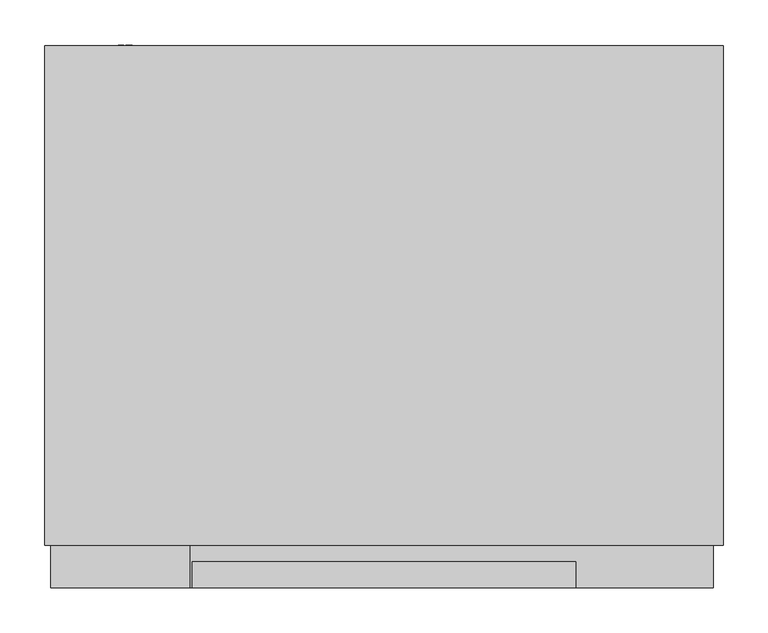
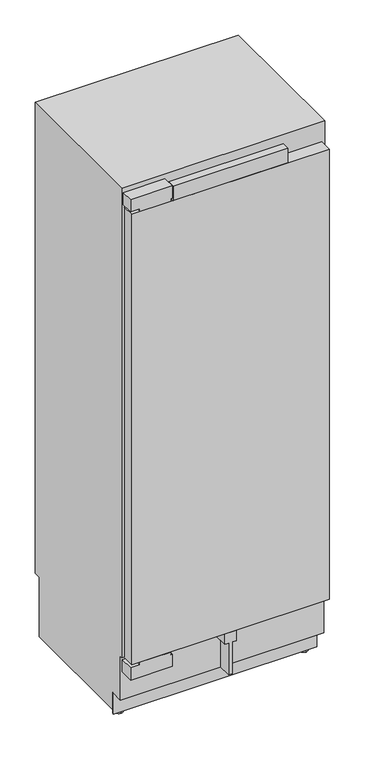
"""IFC4 building model written with IfcOpenShell, lengths in millimetres: proxy geometry, 11502640_USA_K2812Vi : 36281201_USA_11502640_K2812Vi."""

import ifcopenshell
import ifcopenshell.guid

model = None  # the IFC model being written
_history = None  # IfcOwnerHistory: only IFC2X3 demands one
_inside = {}  # id of a spatial element -> (the spatial element, [elements in it])
_under = {}  # id of a project, library or spatial element -> (it, [spatial elements below it])
_declared = {}  # id of a project -> (the project, [libraries it declares])
_typed = {}  # id of a type object -> (the type object, [elements of that type])
_made_of = {}  # id of a material, layer set ... -> (it, [elements and type objects made of it])


def new_model(schema):
    """Start an empty IFC model of exactly this schema.

    Asked for "IFC4X3", IfcOpenShell would pick the latest addendum, in which some entities
    have other attributes; the version numbers below select the first issue.
    IFC2X3 requires an IfcOwnerHistory on every rooted entity: one is made here for all.
    """
    global model, _history
    if schema == "IFC4X3":
        model = ifcopenshell.file(schema_version=(4, 3, 0, 0))
    else:
        model = ifcopenshell.file(schema=schema)
    _inside.clear()
    _under.clear()
    _declared.clear()
    _typed.clear()
    _made_of.clear()
    _history = None
    if model.schema == "IFC2X3":
        org = make("IfcOrganization", Name="unknown")
        user = make(
            "IfcPersonAndOrganization",
            ThePerson=make("IfcPerson", FamilyName="unknown"),
            TheOrganization=org,
        )
        app = make(
            "IfcApplication",
            ApplicationDeveloper=org,
            Version="unknown",
            ApplicationFullName="unknown",
            ApplicationIdentifier="unknown",
        )
        _history = make(
            "IfcOwnerHistory",
            OwningUser=user,
            OwningApplication=app,
            ChangeAction="ADDED",
            CreationDate=0,
        )
    return model


def make(cls, **values):
    """One entity of the class cls with the attributes given. An attribute that is None is left unset."""
    return model.create_entity(
        cls, **{name: value for name, value in values.items() if value is not None}
    )


def rooted(cls, **values):
    """An entity with a GlobalId (a new one), such as an element, a storey or a relation."""
    return make(cls, GlobalId=ifcopenshell.guid.new(), OwnerHistory=_history, **values)


def si_unit(unit_type, name, prefix=None):
    """IfcSIUnit, for example si_unit("LENGTHUNIT", "METRE", prefix="MILLI")."""
    return make("IfcSIUnit", UnitType=unit_type, Prefix=prefix, Name=name)


def assignment(units):
    """IfcUnitAssignment: the units of a project."""
    return None if units is None else make("IfcUnitAssignment", Units=units)


def point(xyz):
    """IfcCartesianPoint."""
    return None if xyz is None else make("IfcCartesianPoint", Coordinates=xyz)


def direction(xyz):
    """IfcDirection."""
    return None if xyz is None else make("IfcDirection", DirectionRatios=xyz)


def frame(location, z_axis=None, x_axis=None):
    """IfcAxis2Placement3D, a coordinate frame: its origin and axes. An axis left out is left unset."""
    return make(
        "IfcAxis2Placement3D",
        Location=point(location),
        Axis=direction(z_axis),
        RefDirection=direction(x_axis),
    )


def frame_2d(location, x_axis=None):
    """IfcAxis2Placement2D, a coordinate frame in the plane: its origin and x axis."""
    return make(
        "IfcAxis2Placement2D", Location=point(location), RefDirection=direction(x_axis)
    )


def origin():
    """The frame at (0, 0, 0) with its axes left unset."""
    return frame((0.0, 0.0, 0.0))


def place(relative_to, where):
    """IfcLocalPlacement: puts the frame where relative to a parent placement (None: the world)."""
    return make(
        "IfcLocalPlacement", PlacementRelTo=relative_to, RelativePlacement=where
    )


def context(
    kind, dimensions, precision=None, world=None, true_north=None, identifier=None
):
    """IfcGeometricRepresentationContext, for example the 3D "Model" context."""
    return make(
        "IfcGeometricRepresentationContext",
        ContextIdentifier=identifier,
        ContextType=kind,
        CoordinateSpaceDimension=dimensions,
        Precision=precision,
        WorldCoordinateSystem=world,
        TrueNorth=true_north,
    )


def project(units=None, contexts=None):
    """IfcProject with its units and contexts."""
    return rooted(
        "IfcProject",
        Name="project",
        RepresentationContexts=contexts,
        UnitsInContext=assignment(units),
    )


def spatial(cls, under=None, at=None, **own):
    """A site, building, storey or space (cls), placed at a placement, below another one or the project."""
    s = rooted(cls, ObjectPlacement=at, **own)
    if under is not None:
        _under.setdefault(under.id(), (under, []))[1].append(s)
    return s


def polyline(points):
    """IfcPolyline through the points."""
    return make("IfcPolyline", Points=[point(p) for p in points])


def circle_curve(where, radius):
    """IfcCircle in the frame where."""
    return make("IfcCircle", Position=where, Radius=radius)


def trimmed(basis, trim1, trim2, sense, master):
    """IfcTrimmedCurve: the piece of a basis curve between two trims."""
    return make(
        "IfcTrimmedCurve",
        BasisCurve=basis,
        Trim1=trim1,
        Trim2=trim2,
        SenseAgreement=sense,
        MasterRepresentation=master,
    )


def segment(curve, same_sense, transition):
    """IfcCompositeCurveSegment."""
    return make(
        "IfcCompositeCurveSegment",
        Transition=transition,
        SameSense=same_sense,
        ParentCurve=curve,
    )


def composite_curve(segments, self_intersect=None):
    """IfcCompositeCurve: segments joined end to end."""
    return make("IfcCompositeCurve", Segments=segments, SelfIntersect=self_intersect)


def outline(outer, holes=None, kind="AREA"):
    """IfcArbitraryClosedProfileDef: a profile drawn as a closed curve; with holes, ...WithVoids."""
    if holes is None:
        return make("IfcArbitraryClosedProfileDef", ProfileType=kind, OuterCurve=outer)
    return make(
        "IfcArbitraryProfileDefWithVoids",
        ProfileType=kind,
        OuterCurve=outer,
        InnerCurves=holes,
    )


def extrude(swept, where, along, depth):
    """IfcExtrudedAreaSolid: the profile swept, set in the frame where, extruded along a direction by depth."""
    return make(
        "IfcExtrudedAreaSolid",
        SweptArea=swept,
        Position=where,
        ExtrudedDirection=direction(along),
        Depth=depth,
    )


def shape(context_of_items, identifier, shape_type, items):
    """IfcShapeRepresentation: the items that make up one representation, for example the "Body"."""
    return make(
        "IfcShapeRepresentation",
        ContextOfItems=context_of_items,
        RepresentationIdentifier=identifier,
        RepresentationType=shape_type,
        Items=items,
    )


def source(mapping_origin, context_of_items, identifier, shape_type, items):
    """IfcRepresentationMap: a shape defined once, which mapped items show again and again."""
    return make(
        "IfcRepresentationMap",
        MappingOrigin=mapping_origin,
        MappedRepresentation=shape(context_of_items, identifier, shape_type, items),
    )


def transform(
    local_origin,
    x_axis=None,
    y_axis=None,
    z_axis=None,
    scale=None,
    scale2=None,
    scale3=None,
    uniform=True,
):
    """IfcCartesianTransformationOperator3D, or its non-uniform kind. x_axis, y_axis, z_axis: its Axis1, 2, 3."""
    if uniform:
        return make(
            "IfcCartesianTransformationOperator3D",
            Axis1=direction(x_axis),
            Axis2=direction(y_axis),
            LocalOrigin=point(local_origin),
            Scale=scale,
            Axis3=direction(z_axis),
        )
    return make(
        "IfcCartesianTransformationOperator3DnonUniform",
        Axis1=direction(x_axis),
        Axis2=direction(y_axis),
        LocalOrigin=point(local_origin),
        Scale=scale,
        Axis3=direction(z_axis),
        Scale2=scale2,
        Scale3=scale3,
    )


def mapped(mapping_source, mapping_target):
    """IfcMappedItem: shows the shape of a source again, moved by a transform."""
    return make(
        "IfcMappedItem", MappingSource=mapping_source, MappingTarget=mapping_target
    )


def made_of(thing, what):
    """Note that an element or type object is made of a material, layer set ...; save() writes the relation."""
    if what is not None:
        _made_of.setdefault(what.id(), (what, []))[1].append(thing)
    return thing


def element(
    cls,
    number,
    at=None,
    inside=None,
    cuts=None,
    type_object=None,
    material=None,
    context=None,
    identifier="Body",
    shape_type=None,
    held_by="IfcProductDefinitionShape",
    body=None,
    shapes=None,
    **own,
):
    """One element of the class cls, such as IfcWall. Its Tag is "e" and its number.

    at: its placement. inside: the storey or other place that contains it. cuts: it is an
    opening in that element (IfcRelVoidsElement). A single representation is given by context,
    identifier, shape_type and body (its items); several are given by shapes. held_by: the class
    of the entity that holds the representations. save() writes the other relations.
    """
    e = rooted(cls, Tag="e%d" % number, ObjectPlacement=at, **own)
    if body is not None:
        shapes = [shape(context, identifier, shape_type, body)]
    if shapes is not None:
        e.Representation = make(held_by, Representations=shapes)
    if inside is not None:
        _inside.setdefault(inside.id(), (inside, []))[1].append(e)
    if cuts is not None:
        rooted(
            "IfcRelVoidsElement", RelatingBuildingElement=cuts, RelatedOpeningElement=e
        )
    if type_object is not None:
        _typed.setdefault(type_object.id(), (type_object, []))[1].append(e)
    return made_of(e, material)


def aggregate(whole, parts):
    """IfcRelAggregates: a whole, such as a stair, and the parts it consists of."""
    return rooted("IfcRelAggregates", RelatingObject=whole, RelatedObjects=parts)


def save(model, path):
    """Write the relations noted so far, then the file.

    IfcRelAggregates (storeys below a building ...), IfcRelContainedInSpatialStructure (elements
    in a storey), IfcRelDefinesByType, IfcRelAssociatesMaterial and IfcRelDeclares: one each for
    every whole, place, type object, material and project.
    """
    for whole, parts in _under.values():
        aggregate(whole, parts)
    for where, things in _inside.values():
        rooted(
            "IfcRelContainedInSpatialStructure",
            RelatedElements=things,
            RelatingStructure=where,
        )
    for kind, things in _typed.values():
        rooted("IfcRelDefinesByType", RelatedObjects=things, RelatingType=kind)
    for what, things in _made_of.values():
        rooted("IfcRelAssociatesMaterial", RelatedObjects=things, RelatingMaterial=what)
    for by, libraries in _declared.values():
        rooted("IfcRelDeclares", RelatingContext=by, RelatedDefinitions=libraries)
    model.write(path)


def plane_surface(at):
    """IfcPlane: the flat surface through the origin of the frame at, square to its z axis."""
    return make("IfcPlane", Position=at)


def cylinder_surface(at, radius):
    """IfcCylindricalSurface: all points at the distance radius from the z axis of the frame at."""
    return make("IfcCylindricalSurface", Position=at, Radius=radius)


def advanced_brep(points, edges, surfaces, faces):
    """IfcAdvancedBrep: a solid bounded by faces that lie on surfaces and meet in shared edges.

    An edge is (start, end): straight between two places in points (the first is 0);
    or (start, end, curve); or (start, end, curve, False) where it runs against its curve.
    A face is (place in surfaces, loops), or (place, loops, False) where it looks against
    its surface's normal. A loop lists edges by number (the first is 1), with a minus sign
    where the edge is run from its end to its start. The first loop is the outer one.
    """
    corners = [point(p) for p in points]
    vertices = [make("IfcVertexPoint", VertexGeometry=c) for c in corners]
    made = []
    for start, end, *more in edges:
        made.append(
            make(
                "IfcEdgeCurve",
                EdgeStart=vertices[start],
                EdgeEnd=vertices[end],
                EdgeGeometry=more[0] if more else make("IfcPolyline", Points=[corners[start], corners[end]]),
                SameSense=more[1] if len(more) > 1 else True,
            )
        )
    hull = []
    for where, loops, *sense in faces:
        bounds = []
        for j, loop in enumerate(loops):
            ring = [make("IfcOrientedEdge", EdgeElement=made[abs(k) - 1], Orientation=k > 0) for k in loop]
            bounds.append(
                make(
                    "IfcFaceOuterBound" if j == 0 else "IfcFaceBound",
                    Bound=make("IfcEdgeLoop", EdgeList=ring),
                    Orientation=True,
                )
            )
        hull.append(make("IfcAdvancedFace", Bounds=bounds, FaceSurface=surfaces[where], SameSense=sense[0] if sense else True))
    return make("IfcAdvancedBrep", Outer=make("IfcClosedShell", CfsFaces=hull))


def specialty_equipment_694db8ee(model_context):
    return source(origin(), model_context, "Body", "SolidModel", [
        extrude(outline(polyline([(-367.0, 47.0), (367.0, 47.0), (367.0, 0.0), (-367.0, 0.0), (-367.0, 47.0)])), frame((0.0, 0.0, 265.0), z_axis=(0.0, 0.0, 1.0), x_axis=(1.0, 0.0, 0.0)), (0.0, 0.0, 1.0), 1771.0),
        extrude(outline(polyline([(-213.5, 29.0), (213.5, 29.0), (213.5, 0.0), (-213.5, 0.0), (-213.5, 29.0)])), frame((0.0, 0.0, 2036.0), z_axis=(0.0, 0.0, 1.0), x_axis=(1.0, 0.0, 0.0)), (0.0, 0.0, 1.0), 56.0),
        extrude(outline(polyline([(265.0, 21.0), (265.0, 0.0), (265.0, -21.0), (224.0, -21.0), (224.0, -6.5), (99.0, -6.5), (99.0, 0.0), (99.0, 6.5), (224.0, 6.5), (224.0, 21.0), (265.0, 21.0)])), frame((0.0, 0.0, 0.0), z_axis=(0.0, 1.0, 0.0), x_axis=(0.0, 0.0, 1.0)), (0.0, 0.0, 1.0), 54.0),
        extrude(outline(polyline([(87.0, 1998.0), (544.0, 1998.0), (544.0, 1791.0), (475.0, 1791.0), (447.0, 1868.0), (201.3701279, 1868.0), (156.3150905, 1940.0880598), (87.0, 1949.0), (87.0, 1998.0)])), frame((-332.0, 0.0, 0.0), z_axis=(1.0, 0.0, 0.0), x_axis=(0.0, 1.0, 0.0)), (0.0, 0.0, 1.0), 664.0),
        extrude(outline(polyline([(196.9886114, 1875.0), (195.809433, 1875.0), (158.6921935, 1934.4), (159.8713719, 1934.4), (196.9886114, 1875.0)])), frame((-69.0, 0.0, 0.0), z_axis=(1.0, 0.0, 0.0), x_axis=(0.0, 1.0, 0.0)), (0.0, 0.0, 1.0), 138.0),
        extrude(outline(polyline([(2095.0, -371.5), (2047.0, -371.5), (2047.0, -337.5), (2036.5, -337.5), (2036.5, -222.5), (2047.0, -222.5), (2047.0, -216.5), (2095.0, -216.5), (2095.0, -371.5)])), frame((0.0, 0.0, 0.0), z_axis=(0.0, 1.0, 0.0), x_axis=(0.0, 0.0, 1.0)), (0.0, 0.0, 1.0), 47.0),
        extrude(outline(polyline([(254.0, -371.5), (206.0, -371.5), (206.0, -216.5), (254.0, -216.5), (254.0, -222.5), (264.0, -222.5), (264.0, -337.5), (254.0, -337.5), (254.0, -371.5)])), frame((0.0, 0.0, 0.0), z_axis=(0.0, 1.0, 0.0), x_axis=(0.0, 0.0, 1.0)), (0.0, 0.0, 1.0), 54.0),
        extrude(outline(polyline([(99.0373308, -287.7645771), (97.7615342, -287.7645771), (97.7615342, -281.8195541), (94.7968516, -281.8195541), (94.7968516, -287.469579), (93.5246295, -287.469579), (93.5246295, -281.8415693), (90.2570046, -281.8415693), (90.2570046, -287.9619689), (88.9546219, -287.9619689), (88.9546219, -280.5443524), (99.0373308, -280.5443524), (99.0373308, -287.7645771)])), frame((0.0, 604.0, 0.0), z_axis=(0.0, 1.0, 0.0), x_axis=(0.0, 0.0, 1.0)), (0.0, 0.0, 1.0), 1.0),
        extrude(outline(polyline([(99.0458, -291.0619704), (90.2663944, -291.0619704), (90.2663944, -296.1145879), (89.0134802, -296.1145879), (89.0134802, -289.8423809), (99.0458, -289.8423809), (99.0458, -291.0619704)])), frame((0.0, 604.0, 0.0), z_axis=(0.0, 1.0, 0.0), x_axis=(0.0, 0.0, 1.0)), (0.0, 0.0, 1.0), 1.0),
        extrude(outline(composite_curve([segment(trimmed(circle_curve(frame_2d((94.0, -288.0)), 7.5), [point((86.5, -288.0))], [point((101.5, -288.0))], False, "CARTESIAN"), True, "CONTINUOUS"), segment(trimmed(circle_curve(frame_2d((94.0, -288.0)), 7.5), [point((101.5, -288.0))], [point((86.5, -288.0))], False, "CARTESIAN"), True, "CONTINUOUS")], self_intersect=False)), frame((0.0, 577.0, 0.0), z_axis=(0.0, 1.0, 0.0), x_axis=(0.0, 0.0, 1.0)), (0.0, 0.0, 1.0), 27.0),
        extrude(outline(polyline([(-378.0, 104.0), (378.0, 104.0), (378.0, 99.0), (-378.0, 99.0), (-378.0, 104.0)])), frame((0.0, 0.0, 14.0), z_axis=(0.0, 0.0, 1.0), x_axis=(1.0, 0.0, 0.0)), (0.0, 0.0, 1.0), 83.0),
        advanced_brep(
        [(-344.0, 139.0, 0.0), (-344.0, 109.0, 0.0), (-344.0, 139.0, 7.0), (-344.0, 109.0, 7.0), (-344.0, 128.7, 7.0), (-344.0, 119.3, 7.0), (-344.0, 128.7, 28.0), (-344.0, 119.3, 28.0)],
        [
            (0, 1, circle_curve(frame((-344.0, 124.0, 0.0), z_axis=(0.0, 0.0, -1.0), x_axis=(1.0, 0.0, 0.0)), 15.0)),
            (1, 0, circle_curve(frame((-344.0, 124.0, 0.0), z_axis=(0.0, 0.0, -1.0), x_axis=(1.0, 0.0, 0.0)), 15.0)),
            (2, 3, circle_curve(frame((-344.0, 124.0, 7.0), z_axis=(0.0, 0.0, 1.0), x_axis=(1.0, 0.0, 0.0)), 15.0)),
            (3, 2, circle_curve(frame((-344.0, 124.0, 7.0), z_axis=(0.0, 0.0, 1.0), x_axis=(1.0, 0.0, 0.0)), 15.0)),
            (4, 5, circle_curve(frame((-344.0, 124.0, 7.0), z_axis=(0.0, 0.0, -1.0), x_axis=(0.0, -1.0, 0.0)), 4.7)),
            (5, 4, circle_curve(frame((-344.0, 124.0, 7.0), z_axis=(0.0, 0.0, -1.0), x_axis=(0.0, -1.0, 0.0)), 4.7)),
            (0, 2),
            (3, 1),
            (6, 7, circle_curve(frame((-344.0, 124.0, 28.0), z_axis=(0.0, 0.0, 1.0), x_axis=(0.0, -1.0, 0.0)), 4.7)),
            (7, 6, circle_curve(frame((-344.0, 124.0, 28.0), z_axis=(0.0, 0.0, 1.0), x_axis=(0.0, -1.0, 0.0)), 4.7)),
            (7, 5),
            (4, 6),
        ],
        [
            plane_surface(frame((-329.0, 124.0, 0.0), z_axis=(0.0, 0.0, -1.0), x_axis=(0.0, -1.0, 0.0))),
            plane_surface(frame((-329.0, 124.0, 7.0), z_axis=(0.0, 0.0, 1.0), x_axis=(0.0, 1.0, 0.0))),
            cylinder_surface(frame((-344.0, 124.0, 7.0), z_axis=(0.0, 0.0, -1.0), x_axis=(1.0, 0.0, 0.0)), 15.0),
            plane_surface(frame((-344.0, 119.3, 28.0), z_axis=(0.0, 0.0, 1.0), x_axis=(1.0, 0.0, 0.0))),
            cylinder_surface(frame((-344.0, 124.0, 28.0), z_axis=(0.0, 0.0, -1.0), x_axis=(0.0, -1.0, 0.0)), 4.7),
        ],
        [
            (0, [[1, 2]]),
            (1, [[3, 4], [5, 6]]),
            (2, [[-1, 7, -4, 8]]),
            (2, [[-2, -8, -3, -7]]),
            (3, [[9, 10]]),
            (4, [[-10, 11, -5, 12]]),
            (4, [[-9, -12, -6, -11]]),
        ],
    ),
        advanced_brep(
        [(344.0, 139.0, 0.0), (344.0, 109.0, 0.0), (344.0, 139.0, 7.0), (344.0, 109.0, 7.0), (344.0, 128.7, 7.0), (344.0, 119.3, 7.0), (344.0, 128.7, 28.0), (344.0, 119.3, 28.0)],
        [
            (0, 1, circle_curve(frame((344.0, 124.0, 0.0), z_axis=(0.0, 0.0, -1.0), x_axis=(1.0, 0.0, 0.0)), 15.0)),
            (1, 0, circle_curve(frame((344.0, 124.0, 0.0), z_axis=(0.0, 0.0, -1.0), x_axis=(1.0, 0.0, 0.0)), 15.0)),
            (2, 3, circle_curve(frame((344.0, 124.0, 7.0), z_axis=(0.0, 0.0, 1.0), x_axis=(1.0, 0.0, 0.0)), 15.0)),
            (3, 2, circle_curve(frame((344.0, 124.0, 7.0), z_axis=(0.0, 0.0, 1.0), x_axis=(1.0, 0.0, 0.0)), 15.0)),
            (4, 5, circle_curve(frame((344.0, 124.0, 7.0), z_axis=(0.0, 0.0, -1.0), x_axis=(0.0, -1.0, 0.0)), 4.7)),
            (5, 4, circle_curve(frame((344.0, 124.0, 7.0), z_axis=(0.0, 0.0, -1.0), x_axis=(0.0, -1.0, 0.0)), 4.7)),
            (0, 2),
            (3, 1),
            (6, 7, circle_curve(frame((344.0, 124.0, 28.0), z_axis=(0.0, 0.0, 1.0), x_axis=(0.0, -1.0, 0.0)), 4.7)),
            (7, 6, circle_curve(frame((344.0, 124.0, 28.0), z_axis=(0.0, 0.0, 1.0), x_axis=(0.0, -1.0, 0.0)), 4.7)),
            (7, 5),
            (4, 6),
        ],
        [
            plane_surface(frame((-329.0, 124.0, 0.0), z_axis=(0.0, 0.0, -1.0), x_axis=(0.0, -1.0, 0.0))),
            plane_surface(frame((-329.0, 124.0, 7.0), z_axis=(0.0, 0.0, 1.0), x_axis=(0.0, 1.0, 0.0))),
            cylinder_surface(frame((344.0, 124.0, 7.0), z_axis=(0.0, 0.0, -1.0), x_axis=(1.0, 0.0, 0.0)), 15.0),
            plane_surface(frame((-344.0, 119.3, 28.0), z_axis=(0.0, 0.0, 1.0), x_axis=(1.0, 0.0, 0.0))),
            cylinder_surface(frame((344.0, 124.0, 28.0), z_axis=(0.0, 0.0, -1.0), x_axis=(0.0, -1.0, 0.0)), 4.7),
        ],
        [
            (0, [[1, 2]]),
            (1, [[3, 4], [5, 6]]),
            (2, [[-1, 7, -4, 8]]),
            (2, [[-2, -8, -3, -7]]),
            (3, [[9, 10]]),
            (4, [[-10, 11, -5, 12]]),
            (4, [[-9, -12, -6, -11]]),
        ],
    ),
        advanced_brep(
        [(378.0, 47.0, 2114.0), (378.0, 47.0, 267.0), (378.0, 54.0, 267.0), (378.0, 54.0, 97.0), (378.0, 104.0, 97.0), (378.0, 104.0, 28.0), (378.0, 577.0, 28.0), (378.0, 577.0, 263.0), (378.0, 604.0, 263.0), (378.0, 604.0, 2114.0), (-378.0, 47.0, 2114.0), (-378.0, 604.0, 2114.0), (-378.0, 604.0, 263.0), (-378.0, 577.0, 263.0), (-378.0, 577.0, 28.0), (-378.0, 104.0, 28.0), (-378.0, 104.0, 97.0), (-378.0, 54.0, 97.0), (-378.0, 54.0, 267.0), (-378.0, 47.0, 267.0), (318.0, 577.0, 28.0), (318.0, 577.0, 14.0), (-318.0, 577.0, 14.0), (-318.0, 577.0, 28.0), (318.0, 104.0, 14.0), (-318.0, 104.0, 14.0), (-318.0, 104.0, 28.0), (318.0, 104.0, 28.0), (332.0, 47.0, 1998.0), (332.0, 47.0, 343.0), (-332.0, 47.0, 343.0), (-332.0, 47.0, 1998.0), (332.0, 544.0, 1998.0), (-332.0, 544.0, 1998.0), (-332.0, 544.0, 343.0), (332.0, 544.0, 343.0), (-336.5, 202.8193473, 28.0), (-355.5, 202.8193473, 28.0), (-355.5, 153.1806527, 28.0), (-336.5, 153.1806527, 28.0), (-356.0, 525.8193473, 28.0), (-356.0, 476.1806527, 28.0), (-340.0, 476.1806527, 28.0), (-340.0, 525.8193473, 28.0), (355.5, 153.1806527, 28.0), (355.5, 202.8193473, 28.0), (336.5, 202.8193473, 28.0), (336.5, 153.1806527, 28.0), (340.0, 525.8193473, 28.0), (340.0, 476.1806527, 28.0), (356.0, 476.1806527, 28.0), (356.0, 525.8193473, 28.0), (-336.5, 203.0, 25.0), (-336.5, 153.0, 25.0), (-355.5, 153.0, 25.0), (-355.5, 203.0, 25.0), (-336.5, 178.0, 25.0), (-355.5, 178.0, 25.0), (355.5, 178.0, 25.0), (355.5, 153.0, 25.0), (355.5, 203.0, 25.0), (336.5, 203.0, 25.0), (336.5, 153.0, 25.0), (336.5, 178.0, 25.0), (-356.0, 526.0, 25.0), (-356.0, 476.0, 25.0), (-356.0, 501.0, 25.0), (-340.0, 526.0, 25.0), (-340.0, 476.0, 25.0), (-340.0, 501.0, 25.0), (340.0, 526.0, 25.0), (340.0, 476.0, 25.0), (340.0, 501.0, 25.0), (356.0, 526.0, 25.0), (356.0, 476.0, 25.0), (356.0, 501.0, 25.0)],
        [
            (0, 1),
            (1, 2),
            (2, 3),
            (3, 4),
            (4, 5),
            (5, 6),
            (6, 7),
            (7, 8),
            (8, 9),
            (9, 0),
            (10, 11),
            (11, 12),
            (12, 13),
            (13, 14),
            (14, 15),
            (15, 16),
            (16, 17),
            (17, 18),
            (18, 19),
            (19, 10),
            (9, 11),
            (10, 0),
            (8, 12),
            (7, 13),
            (6, 20),
            (20, 21),
            (21, 22),
            (22, 23),
            (23, 14),
            (21, 24),
            (24, 25),
            (25, 22),
            (4, 16),
            (15, 26),
            (26, 25),
            (24, 27),
            (27, 5),
            (3, 17),
            (2, 18),
            (1, 19),
            (28, 29),
            (29, 30),
            (30, 31),
            (31, 28),
            (32, 33),
            (33, 34),
            (34, 35),
            (35, 32),
            (35, 29),
            (28, 32),
            (34, 30),
            (33, 31),
            (23, 26),
            (36, 37),
            (37, 38),
            (38, 39),
            (39, 36),
            (40, 41),
            (41, 42),
            (42, 43),
            (43, 40),
            (27, 20),
            (44, 45),
            (45, 46),
            (46, 47),
            (47, 44),
            (48, 49),
            (49, 50),
            (50, 51),
            (51, 48),
            (52, 53, circle_curve(frame((-336.5, 178.0, 25.0), z_axis=(-1.0, 0.0, 0.0), x_axis=(0.0, -1.0, 0.0)), 25.0)),
            (53, 54),
            (54, 55, circle_curve(frame((-355.5, 178.0, 25.0), z_axis=(1.0, 0.0, 0.0), x_axis=(0.0, -1.0, 0.0)), 25.0)),
            (55, 52),
            (53, 39, circle_curve(frame((-336.5, 178.0, 25.0), z_axis=(-1.0, 0.0, 0.0), x_axis=(0.0, -1.0, 0.0)), 25.0)),
            (38, 54, circle_curve(frame((-355.5, 178.0, 25.0), z_axis=(1.0, 0.0, 0.0), x_axis=(0.0, -1.0, 0.0)), 25.0)),
            (55, 37, circle_curve(frame((-355.5, 178.0, 25.0), z_axis=(1.0, 0.0, 0.0), x_axis=(0.0, -1.0, 0.0)), 25.0)),
            (36, 52, circle_curve(frame((-336.5, 178.0, 25.0), z_axis=(-1.0, 0.0, 0.0), x_axis=(0.0, -1.0, 0.0)), 25.0)),
            (52, 56),
            (56, 53),
            (54, 57),
            (57, 55),
            (58, 59),
            (59, 60, circle_curve(frame((355.5, 178.0, 25.0), z_axis=(1.0, 0.0, 0.0), x_axis=(0.0, -1.0, 0.0)), 25.0)),
            (60, 58),
            (60, 45, circle_curve(frame((355.5, 178.0, 25.0), z_axis=(1.0, 0.0, 0.0), x_axis=(0.0, -1.0, 0.0)), 25.0)),
            (44, 59, circle_curve(frame((355.5, 178.0, 25.0), z_axis=(1.0, 0.0, 0.0), x_axis=(0.0, -1.0, 0.0)), 25.0)),
            (61, 62, circle_curve(frame((336.5, 178.0, 25.0), z_axis=(-1.0, 0.0, 0.0), x_axis=(0.0, -1.0, 0.0)), 25.0)),
            (62, 63),
            (63, 61),
            (62, 47, circle_curve(frame((336.5, 178.0, 25.0), z_axis=(-1.0, 0.0, 0.0), x_axis=(0.0, -1.0, 0.0)), 25.0)),
            (46, 61, circle_curve(frame((336.5, 178.0, 25.0), z_axis=(-1.0, 0.0, 0.0), x_axis=(0.0, -1.0, 0.0)), 25.0)),
            (64, 65, circle_curve(frame((-356.0, 501.0, 25.0), z_axis=(-1.0, 0.0, 0.0), x_axis=(0.0, -1.0, 0.0)), 25.0)),
            (65, 66),
            (66, 64),
            (65, 41, circle_curve(frame((-356.0, 501.0, 25.0), z_axis=(-1.0, 0.0, 0.0), x_axis=(0.0, -1.0, 0.0)), 25.0)),
            (40, 64, circle_curve(frame((-356.0, 501.0, 25.0), z_axis=(-1.0, 0.0, 0.0), x_axis=(0.0, -1.0, 0.0)), 25.0)),
            (64, 67),
            (67, 68, circle_curve(frame((-340.0, 501.0, 25.0), z_axis=(-1.0, 0.0, 0.0), x_axis=(0.0, -1.0, 0.0)), 25.0)),
            (68, 65),
            (43, 67, circle_curve(frame((-340.0, 501.0, 25.0), z_axis=(-1.0, 0.0, 0.0), x_axis=(0.0, -1.0, 0.0)), 25.0)),
            (68, 42, circle_curve(frame((-340.0, 501.0, 25.0), z_axis=(-1.0, 0.0, 0.0), x_axis=(0.0, -1.0, 0.0)), 25.0)),
            (67, 69),
            (69, 68),
            (70, 71, circle_curve(frame((340.0, 501.0, 25.0), z_axis=(-1.0, 0.0, 0.0), x_axis=(0.0, -1.0, 0.0)), 25.0)),
            (71, 72),
            (72, 70),
            (71, 49, circle_curve(frame((340.0, 501.0, 25.0), z_axis=(-1.0, 0.0, 0.0), x_axis=(0.0, -1.0, 0.0)), 25.0)),
            (48, 70, circle_curve(frame((340.0, 501.0, 25.0), z_axis=(-1.0, 0.0, 0.0), x_axis=(0.0, -1.0, 0.0)), 25.0)),
            (70, 73),
            (73, 74, circle_curve(frame((356.0, 501.0, 25.0), z_axis=(-1.0, 0.0, 0.0), x_axis=(0.0, -1.0, 0.0)), 25.0)),
            (74, 71),
            (51, 73, circle_curve(frame((356.0, 501.0, 25.0), z_axis=(-1.0, 0.0, 0.0), x_axis=(0.0, -1.0, 0.0)), 25.0)),
            (74, 50, circle_curve(frame((356.0, 501.0, 25.0), z_axis=(-1.0, 0.0, 0.0), x_axis=(0.0, -1.0, 0.0)), 25.0)),
            (73, 75),
            (75, 74),
            (59, 62),
            (61, 60),
        ],
        [
            plane_surface(frame((378.0, 604.0, 2114.0), z_axis=(1.0, 0.0, 0.0), x_axis=(0.0, -1.0, 0.0))),
            plane_surface(frame((-378.0, 604.0, 2114.0), z_axis=(-1.0, 0.0, 0.0), x_axis=(0.0, 1.0, 0.0))),
            plane_surface(frame((-378.0, 47.0, 2114.0), z_axis=(0.0, 0.0, 1.0), x_axis=(1.0, 0.0, 0.0))),
            plane_surface(frame((-378.0, 604.0, 2114.0), z_axis=(0.0, 1.0, 0.0), x_axis=(1.0, 0.0, 0.0))),
            plane_surface(frame((-378.0, 604.0, 263.0), z_axis=(0.0, 0.0, -1.0), x_axis=(1.0, 0.0, 0.0))),
            plane_surface(frame((-378.0, 577.0, 263.0), z_axis=(0.0, 1.0, 0.0), x_axis=(1.0, 0.0, 0.0))),
            plane_surface(frame((-378.0, 577.0, 14.0), z_axis=(0.0, 0.0, -1.0), x_axis=(1.0, 0.0, 0.0))),
            plane_surface(frame((-378.0, 104.0, 14.0), z_axis=(0.0, -1.0, 0.0), x_axis=(1.0, 0.0, 0.0))),
            plane_surface(frame((-378.0, 104.0, 97.0), z_axis=(0.0, 0.0, -1.0), x_axis=(1.0, 0.0, 0.0))),
            plane_surface(frame((-378.0, 54.0, 97.0), z_axis=(0.0, -1.0, 0.0), x_axis=(1.0, 0.0, 0.0))),
            plane_surface(frame((-378.0, 54.0, 267.0), z_axis=(0.0, 0.0, -1.0), x_axis=(1.0, 0.0, 0.0))),
            plane_surface(frame((-378.0, 47.0, 267.0), z_axis=(0.0, -1.0, 0.0), x_axis=(1.0, 0.0, 0.0))),
            plane_surface(frame((332.0, 544.0, 1998.0), z_axis=(0.0, -1.0, 0.0), x_axis=(0.0, 0.0, -1.0))),
            plane_surface(frame((332.0, 544.0, 1998.0), z_axis=(-1.0, 0.0, 0.0), x_axis=(0.0, -1.0, 0.0))),
            plane_surface(frame((332.0, 544.0, 343.0), z_axis=(0.0, 0.0, 1.0), x_axis=(0.0, -1.0, 0.0))),
            plane_surface(frame((-332.0, 544.0, 343.0), z_axis=(1.0, 0.0, 0.0), x_axis=(0.0, -1.0, 0.0))),
            plane_surface(frame((-332.0, 544.0, 1998.0), z_axis=(0.0, 0.0, -1.0), x_axis=(0.0, -1.0, 0.0))),
            plane_surface(frame((-378.0, 604.0, 28.0), z_axis=(0.0, 0.0, -1.0), x_axis=(-1.0, 0.0, 0.0))),
            plane_surface(frame((-318.0, 104.0, 28.0), z_axis=(-1.0, 0.0, 0.0), x_axis=(0.0, 0.0, -1.0))),
            plane_surface(frame((318.0, 604.0, 28.0), z_axis=(1.0, 0.0, 0.0), x_axis=(0.0, 0.0, -1.0))),
            cylinder_surface(frame((-470.6988927, 178.0, 25.0), z_axis=(1.0, 0.0, 0.0), x_axis=(0.0, -1.0, 0.0)), 25.0),
            plane_surface(frame((-336.5, 178.0, 25.0), z_axis=(1.0, 0.0, 0.0), x_axis=(0.0, -1.0, 0.0))),
            plane_surface(frame((-355.5, 178.0, 25.0), z_axis=(-1.0, 0.0, 0.0), x_axis=(0.0, -1.0, 0.0))),
            plane_surface(frame((355.5, 178.0, 25.0), z_axis=(1.0, 0.0, 0.0), x_axis=(0.0, -1.0, 0.0))),
            plane_surface(frame((336.5, 178.0, 25.0), z_axis=(-1.0, 0.0, 0.0), x_axis=(0.0, -1.0, 0.0))),
            plane_surface(frame((-356.0, 501.0, 25.0), z_axis=(-1.0, 0.0, 0.0), x_axis=(0.0, -1.0, 0.0))),
            cylinder_surface(frame((-470.6988927, 501.0, 25.0), z_axis=(1.0, 0.0, 0.0), x_axis=(0.0, -1.0, 0.0)), 25.0),
            plane_surface(frame((-340.0, 501.0, 25.0), z_axis=(1.0, 0.0, 0.0), x_axis=(0.0, -1.0, 0.0))),
            plane_surface(frame((340.0, 501.0, 25.0), z_axis=(-1.0, 0.0, 0.0), x_axis=(0.0, -1.0, 0.0))),
            plane_surface(frame((356.0, 501.0, 25.0), z_axis=(1.0, 0.0, 0.0), x_axis=(0.0, -1.0, 0.0))),
        ],
        [
            (0, [[1, 2, 3, 4, 5, 6, 7, 8, 9, 10]]),
            (1, [[11, 12, 13, 14, 15, 16, 17, 18, 19, 20]]),
            (2, [[-10, 21, -11, 22]]),
            (3, [[-9, 23, -12, -21]]),
            (4, [[-8, 24, -13, -23]]),
            (5, [[-24, -7, 25, 26, 27, 28, 29, -14]]),
            (6, [[-27, 30, 31, 32]]),
            (7, [[33, -16, 34, 35, -31, 36, 37, -5]]),
            (8, [[-4, 38, -17, -33]]),
            (9, [[-3, 39, -18, -38]]),
            (10, [[-2, 40, -19, -39]]),
            (11, [[-1, -22, -20, -40], [41, 42, 43, 44]]),
            (12, [[45, 46, 47, 48]]),
            (13, [[-48, 49, -41, 50]]),
            (14, [[-47, 51, -42, -49]]),
            (15, [[-46, 52, -43, -51]]),
            (16, [[-45, -50, -44, -52]]),
            (17, [[53, -34, -15, -29], [54, 55, 56, 57], [58, 59, 60, 61]]),
            (17, [[62, -25, -6, -37], [63, 64, 65, 66], [67, 68, 69, 70]]),
            (18, [[-53, -28, -32, -35]]),
            (19, [[-62, -36, -30, -26]]),
            (20, [[71, 72, 73, 74]]),
            (20, [[-72, 75, -56, 76]]),
            (20, [[-74, 77, -54, 78]]),
            (21, [[-71, 79, 80]]),
            (21, [[-80, -79, -78, -57, -75]]),
            (22, [[-73, 81, 82]]),
            (22, [[-81, -76, -55, -77, -82]]),
            (23, [[83, 84, 85]]),
            (23, [[-83, -85, 86, -63, 87]]),
            (24, [[88, 89, 90]]),
            (24, [[-89, 91, -65, 92, -90]]),
            (25, [[93, 94, 95]]),
            (25, [[-94, 96, -58, 97, -95]]),
            (26, [[-93, 98, 99, 100]]),
            (26, [[-98, -97, -61, 101]]),
            (26, [[-100, 102, -59, -96]]),
            (27, [[-99, 103, 104]]),
            (27, [[-104, -103, -101, -60, -102]]),
            (28, [[105, 106, 107]]),
            (28, [[-106, 108, -67, 109, -107]]),
            (26, [[-105, 110, 111, 112]]),
            (26, [[-110, -109, -70, 113]]),
            (26, [[-112, 114, -68, -108]]),
            (29, [[-111, 115, 116]]),
            (29, [[-116, -115, -113, -69, -114]]),
            (20, [[-84, 117, -88, 118]]),
            (20, [[-117, -87, -66, -91]]),
            (20, [[-118, -92, -64, -86]]),
        ],
    ),
    ])


if __name__ == "__main__":
    model = new_model("IFC4")
    model_context = context("Model", 3, world=origin())
    ifc_project = project(units=[si_unit("LENGTHUNIT", "METRE", prefix="MILLI")], contexts=[model_context])
    site = spatial("IfcSite", under=ifc_project)
    building = spatial("IfcBuilding", under=site)
    placement = place(None, origin())
    specialty_equipment_shape = specialty_equipment_694db8ee(model_context)
    element("IfcBuildingElementProxy", 1, Name="11502640_USA_K2812Vi : 36281201_USA_11502640_K2812Vi", ObjectType="11502640_USA_K2812Vi : 36281201_USA_11502640_K2812Vi", at=placement, inside=building, context=model_context, shape_type="MappedRepresentation", body=[
        mapped(specialty_equipment_shape, transform((0.0, 0.0, 0.0), x_axis=(1.0, 0.0, 0.0), y_axis=(0.0, 1.0, 0.0), z_axis=(0.0, 0.0, 1.0))),
    ])
    save(model, "model.ifc")
